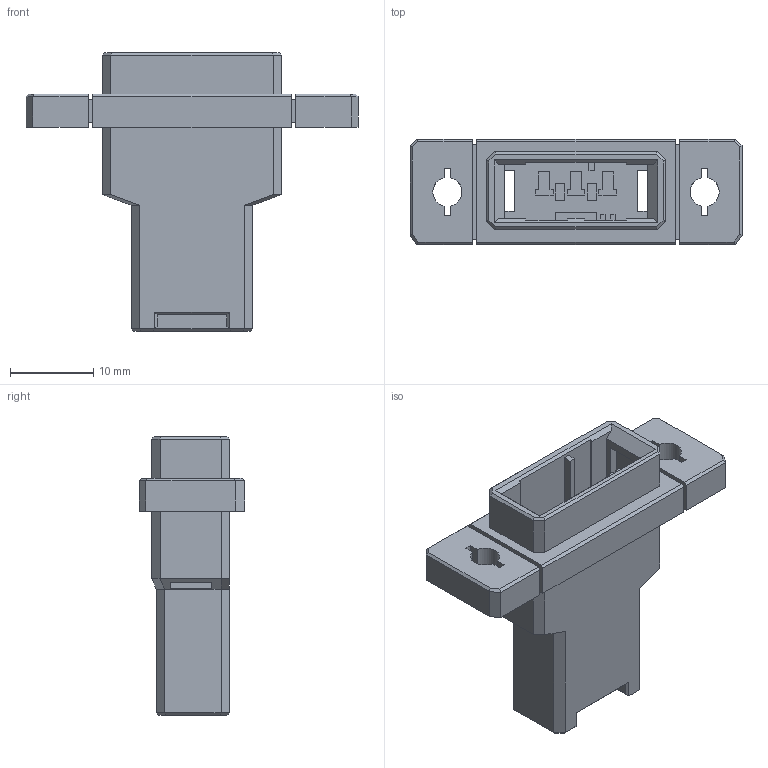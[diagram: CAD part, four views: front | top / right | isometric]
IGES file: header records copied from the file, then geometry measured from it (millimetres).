
Start section:  PTC IGES file: c-1-178802-3-gn-3d.igs
Global section: file name: c-1-178802-3-gn-3d.igs; native system: Creo Parametric by Parametric Technology Corporation; preprocessor: 2013050; author: workeradm; organization: Unknown; units: millimetre
Bounding box: 40 x 12.7 x 33.6 mm (x, y, z)
Surface area: 4081.3 mm2 (no closed solid volume)
Topology: 0 solids, 0 shells, 262 faces, 1402 edges, 1402 vertices
Faces by surface type: bspline 258, revolution 4
